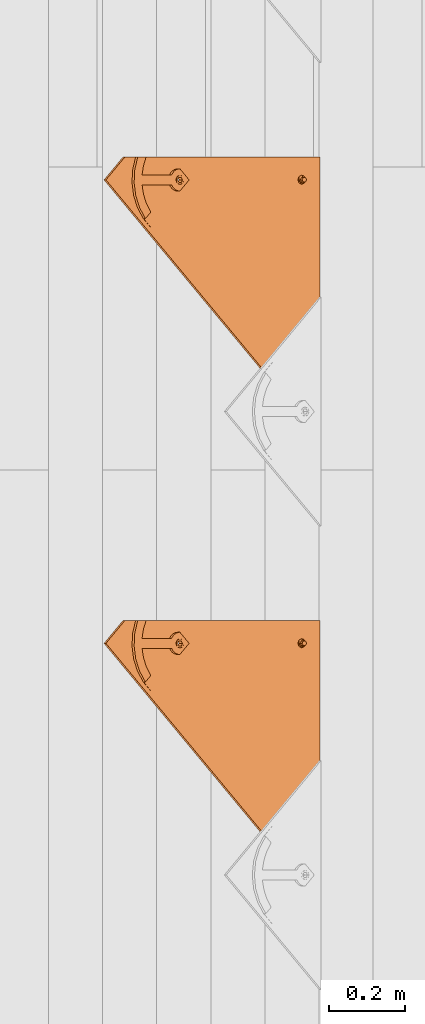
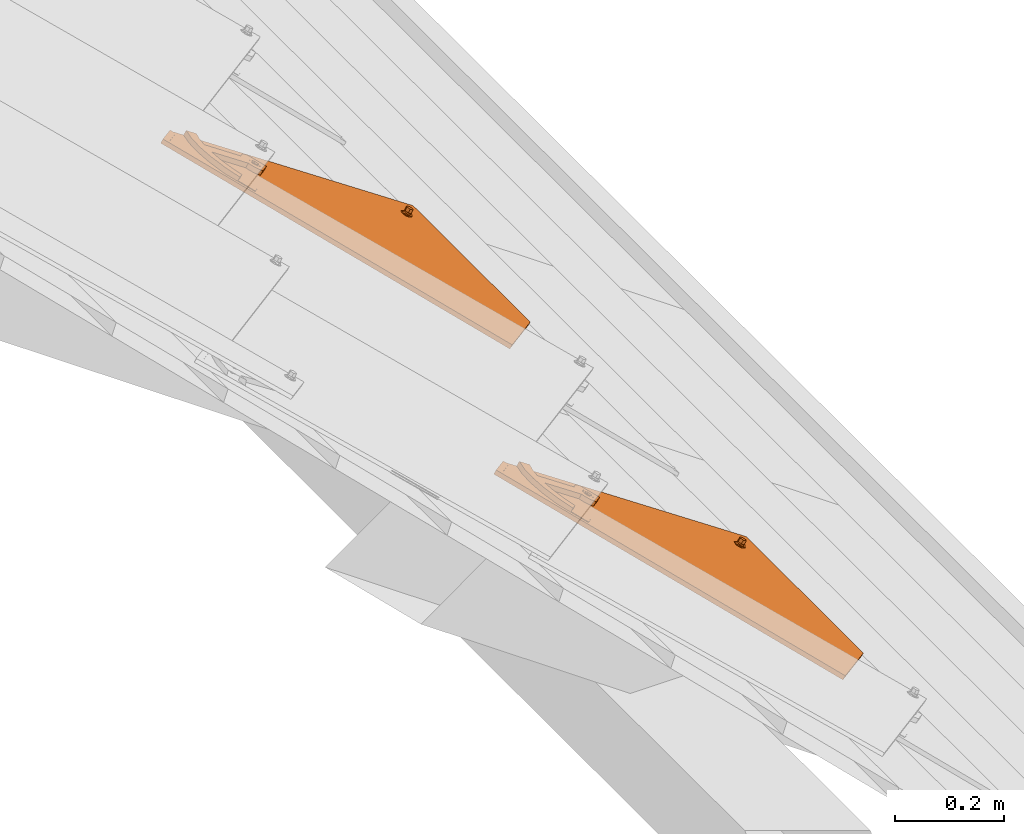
# One storey, part 135 of 151: 2 proxies.
"""IFC2X3 building model written with IfcOpenShell, lengths in millimetres."""

from ifc_helpers import new_model, entity, si_unit, converted_unit, derived_unit, direction, frame, origin, place, context, subcontext, project, spatial, faceted_brep, source, transform, mapped, material, material_list, type_object, type_shapes, element, save


model = new_model("IFC2X3")

# Units and contexts
model_context = context("Model", 3, precision=0.01, world=origin(), true_north=direction((6.12303176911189e-17, 1.0)))
body_context = subcontext(model_context, "Body", "Model", "MODEL_VIEW")
ifc_project = project(units=[si_unit("LENGTHUNIT", "METRE", prefix="MILLI"), si_unit("AREAUNIT", "SQUARE_METRE"), si_unit("VOLUMEUNIT", "CUBIC_METRE"), converted_unit("PLANEANGLEUNIT", "DEGREE", entity("IfcRatioMeasure", 0.0174532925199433), si_unit("PLANEANGLEUNIT", "RADIAN"), dimensions=[0, 0, 0, 0, 0, 0, 0]), si_unit("MASSUNIT", "GRAM", prefix="KILO"), derived_unit("MASSDENSITYUNIT", [(si_unit("MASSUNIT", "GRAM", prefix="KILO"), 1), (si_unit("LENGTHUNIT", "METRE"), -3)]), si_unit("TIMEUNIT", "SECOND"), si_unit("FREQUENCYUNIT", "HERTZ"), si_unit("THERMODYNAMICTEMPERATUREUNIT", "DEGREE_CELSIUS"), derived_unit("THERMALTRANSMITTANCEUNIT", [(si_unit("MASSUNIT", "GRAM", prefix="KILO"), 1), (si_unit("THERMODYNAMICTEMPERATUREUNIT", "KELVIN"), -1), (si_unit("TIMEUNIT", "SECOND"), -3)]), derived_unit("VOLUMETRICFLOWRATEUNIT", [(si_unit("LENGTHUNIT", "METRE"), 3), (si_unit("TIMEUNIT", "SECOND"), -1)]), si_unit("ELECTRICCURRENTUNIT", "AMPERE"), si_unit("ELECTRICVOLTAGEUNIT", "VOLT"), si_unit("POWERUNIT", "WATT"), si_unit("FORCEUNIT", "NEWTON", prefix="KILO"), si_unit("ILLUMINANCEUNIT", "LUX"), si_unit("LUMINOUSFLUXUNIT", "LUMEN"), si_unit("LUMINOUSINTENSITYUNIT", "CANDELA"), derived_unit("USERDEFINED", [(si_unit("MASSUNIT", "GRAM", prefix="KILO"), -1), (si_unit("LENGTHUNIT", "METRE"), -2), (si_unit("TIMEUNIT", "SECOND"), 3), (si_unit("LUMINOUSFLUXUNIT", "LUMEN"), 1)]), derived_unit("LINEARVELOCITYUNIT", [(si_unit("LENGTHUNIT", "METRE"), 1), (si_unit("TIMEUNIT", "SECOND"), -1)]), si_unit("PRESSUREUNIT", "PASCAL"), derived_unit("USERDEFINED", [(si_unit("LENGTHUNIT", "METRE"), -2), (si_unit("MASSUNIT", "GRAM", prefix="KILO"), 1), (si_unit("TIMEUNIT", "SECOND"), -2)])], contexts=[model_context])

# Site, building, storey
site_placement = place(None, origin())
site = spatial("IfcSite", under=ifc_project, at=site_placement, Name="Default", CompositionType="ELEMENT")
building_placement = place(site_placement, origin())
building = spatial("IfcBuilding", under=site, at=building_placement, CompositionType="ELEMENT")
storey_placement = place(building_placement, origin())
storey = spatial("IfcBuildingStorey", under=building, at=storey_placement, Name="Level 1", CompositionType="ELEMENT", Elevation=0.0)

# Proxies
ifc_material_1 = material(Name="Rubber - Sunstyle - Black")
ifc_material_2 = material(Name="Glass - Sunstyle - Tainted Black")
ifc_material_list_1 = material_list([ifc_material_1, ifc_material_2])
ifc_material_list_2 = material_list([ifc_material_1, ifc_material_2])
building_element_proxy_type = type_object("IfcBuildingElementProxyType", Name="Corner Bottom Big Right - Black", PredefinedType="NOTDEFINED", material=ifc_material_list_2)
shared_shape = source(origin(), body_context, "Body", "Brep", [
    faceted_brep([(0.270009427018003, -2.025866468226, -4.01619789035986), (-5.50419340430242, -5.35913660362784, -3.96037390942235), (-5.50419340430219, -4.99082751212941, 18.0314954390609), (0.270009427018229, -1.65755737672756, 17.9756714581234), (-5.50419340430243, -12.0256768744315, -3.84872594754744), (-5.5041934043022, -11.6573677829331, 18.1431434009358), (0.270009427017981, -15.3589470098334, -3.79290196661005), (0.270009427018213, -14.990637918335, 18.1989673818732), (6.04421225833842, -12.0256768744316, -3.84872594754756), (6.04421225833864, -11.6573677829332, 18.1431434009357), (6.04421225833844, -5.35913660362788, -3.96037390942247), (6.04421225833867, -4.99082751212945, 18.0314954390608), (-8.3336947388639, -16.9265954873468, 18.2313898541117), (0.27000942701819, -20.4898667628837, 18.2910657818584), (-11.8974656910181, -8.32409764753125, 18.0873194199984), (-8.33369473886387, 0.278400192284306, 17.9432489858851), (0.270009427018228, 3.84167146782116, 17.8835730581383), (8.87371359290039, 0.278400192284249, 17.9432489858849), (12.4374845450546, -8.32409764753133, 18.0873194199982), (8.87371359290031, -16.9265954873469, 18.2313898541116), (-11.1602134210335, -6.95050198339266, 20.4858706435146), (-9.50050407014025, -8.25322861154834, 22.3189355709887), (0.270009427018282, -0.940007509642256, 22.9603444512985), (0.27000942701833, 0.300490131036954, 22.3799978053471), (0.270009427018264, 2.4580409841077, 21.3706227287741), (-6.05323627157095, -4.59022324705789, 23.0214764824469), (-6.05323627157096, -11.8906547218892, 23.1437405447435), (0.270009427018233, -18.990246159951, 21.7298281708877), (0.270009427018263, -15.5408704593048, 23.2048725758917), (11.2551842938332, -12.0411541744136, 20.3827540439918), (10.3938597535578, -8.25726753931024, 22.077768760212), (6.59325512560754, -4.59022324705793, 23.0214764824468), (6.5932551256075, -11.8906547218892, 23.1437405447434), (-6.05323627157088, -11.7566262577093, 31.1466287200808), (0.270009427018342, -15.4068419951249, 31.207760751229), (0.270009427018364, -8.10641052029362, 31.0854966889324), (-6.05323627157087, -4.456194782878, 31.0243646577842), (6.59325512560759, -11.7566262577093, 31.1466287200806), (6.59325512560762, -4.45619478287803, 31.024364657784), (0.270009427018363, -0.805979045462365, 30.9632326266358), (0.270009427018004, -8.69240673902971, -3.90454992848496)], [[[0, 1, 2, 3]], [[1, 4, 5, 2]], [[4, 6, 7, 5]], [[6, 8, 9, 7]], [[8, 10, 11, 9]], [[10, 0, 3, 11]], [[12, 7, 13]], [[7, 12, 5]], [[14, 5, 12]], [[5, 14, 2]], [[15, 2, 14]], [[3, 2, 15]], [[15, 16, 3]], [[16, 17, 3]], [[11, 3, 17]], [[11, 17, 18]], [[9, 11, 18]], [[18, 19, 9]], [[7, 9, 19]], [[19, 13, 7]], [[15, 20, 16]], [[21, 22, 23, 24]], [[22, 21, 25]], [[20, 14, 12]], [[15, 14, 20]], [[25, 21, 26]], [[20, 24, 16]], [[12, 13, 27]], [[12, 27, 20]], [[21, 28, 26]], [[21, 27, 28]], [[20, 21, 24]], [[20, 27, 21]], [[19, 29, 13]], [[30, 23, 31]], [[30, 28, 27]], [[24, 23, 30]], [[29, 27, 13]], [[19, 18, 29]], [[29, 30, 27]], [[29, 17, 24]], [[24, 17, 16]], [[31, 32, 30]], [[23, 22, 31]], [[28, 30, 32]], [[29, 24, 30]], [[29, 18, 17]], [[33, 34, 35]], [[35, 36, 33]], [[34, 37, 35]], [[38, 35, 37]], [[35, 38, 39]], [[35, 39, 36]], [[40, 6, 4]], [[4, 1, 40]], [[1, 0, 40]], [[40, 8, 6]], [[0, 10, 40]], [[8, 40, 10]], [[22, 25, 36, 39]], [[25, 26, 33, 36]], [[26, 28, 34, 33]], [[28, 32, 37, 34]], [[32, 31, 38, 37]], [[31, 22, 39, 38]]]),
    faceted_brep([(-518.247351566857, 79.9143812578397, 14.9652572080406), (-518.247351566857, 79.9394990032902, 16.4650468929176), (-526.732038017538, 88.4241854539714, 16.3229495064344), (-526.732038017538, 88.399067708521, 14.8231598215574), (-0.00032251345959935, 614.98308737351, 6.00418773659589), (60.1037538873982, 554.895864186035, 7.01049921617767), (51.6190674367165, 546.411177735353, 7.15259660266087), (-0.000322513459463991, 598.016093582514, 6.28834266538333), (-0.000322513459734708, 615.00820511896, 7.50397742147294), (-0.000322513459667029, 598.041211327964, 7.78813235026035), (51.6190674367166, 546.436295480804, 8.65238628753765), (60.1037538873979, 554.920981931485, 8.51028890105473)], [[[0, 1, 2, 3]], [[0, 3, 4, 5, 6, 7]], [[3, 2, 8, 4]], [[2, 1, 9, 10, 11, 8]], [[1, 0, 7, 9]], [[6, 5, 11, 10]], [[4, 8, 11, 5]], [[9, 7, 6, 10]]]),
    faceted_brep([(0.0, 372.774440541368, 20.3195200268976), (0.0, 377.273809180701, 20.2441667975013), (-8.60370416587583, 376.337711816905, 20.2598440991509), (8.60370416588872, 376.337711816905, 20.2598440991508), (6.64022859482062, 381.107009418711, 20.1799702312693), (12.1674751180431, 384.940209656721, 20.1157736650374), (6.64022859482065, 388.773409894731, 20.0515770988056), (8.6037041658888, 393.542707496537, 19.9717032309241), (0.0, 392.606610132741, 19.9873805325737), (0.0, 397.105978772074, 19.9120273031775), (-8.60370416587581, 393.542707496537, 19.9717032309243), (-6.64022859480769, 388.773409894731, 20.0515770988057), (-12.1674751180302, 384.940209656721, 20.1157736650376), (-6.6402285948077, 381.107009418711, 20.1799702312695), (-6.6402282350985, 388.505487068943, 4.05382046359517), (0.0, 392.338687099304, 3.98962390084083), (-6.64022823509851, 380.839087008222, 4.18221358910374), (0.0, 377.005886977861, 4.24641015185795), (6.64022823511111, 380.839087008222, 4.1822135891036), (6.64022823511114, 388.505487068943, 4.05382046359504), (-8.603704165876, 376.069789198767, 4.26208746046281), (0.0, 372.50651792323, 4.32176338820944), (-12.1674751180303, 384.672287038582, 4.11801702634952), (-8.60370416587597, 393.274784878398, 3.97394659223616), (0.0, 396.838056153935, 3.91427066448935), (8.60370416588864, 393.274784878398, 3.97394659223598), (12.1674751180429, 384.672287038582, 4.11801702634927), (8.60370416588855, 376.069789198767, 4.26208746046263)], [[[0, 1, 2]], [[1, 0, 3]], [[3, 4, 1]], [[4, 3, 5]], [[6, 4, 5]], [[5, 7, 6]], [[7, 8, 6]], [[8, 7, 9]], [[8, 9, 10]], [[10, 11, 8]], [[12, 11, 10]], [[2, 13, 12]], [[12, 13, 11]], [[13, 2, 1]], [[8, 11, 14, 15]], [[11, 13, 16, 14]], [[13, 1, 17, 16]], [[1, 4, 18, 17]], [[4, 6, 19, 18]], [[6, 8, 15, 19]], [[20, 17, 21]], [[17, 20, 16]], [[22, 16, 20]], [[14, 16, 22]], [[23, 14, 22]], [[15, 14, 23]], [[23, 24, 15]], [[24, 25, 15]], [[19, 15, 25]], [[19, 25, 26]], [[26, 18, 19]], [[26, 27, 18]], [[17, 18, 27]], [[27, 21, 17]], [[24, 23, 10, 9]], [[10, 23, 22, 12]], [[20, 21, 0, 2]], [[20, 2, 12, 22]], [[21, 27, 3, 0]], [[3, 27, 26, 5]], [[25, 24, 9, 7]], [[25, 7, 5, 26]]]),
    faceted_brep([(-10.3923048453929, 390.78484910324, 9.75895037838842), (-8.48528137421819, 393.269782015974, 9.7173339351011), (-0.00032251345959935, 614.983087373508, 6.0041877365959), (-11.5911099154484, 387.891083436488, 9.8074137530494), (-6.0, 395.176538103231, 9.68540051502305), (-3.10582854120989, 396.37517508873, 9.6653263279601), (60.1037538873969, 554.895864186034, 7.01049921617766), (0.0, 396.784007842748, 9.65847939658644), (3.1058285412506, 396.37517508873, 9.6653263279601), (6.0, 395.176538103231, 9.68540051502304), (8.48528137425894, 393.269782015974, 9.7173339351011), (10.3923048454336, 390.784849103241, 9.75895037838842), (11.5911099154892, 387.891083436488, 9.8074137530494), (12.0, 384.785690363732, 9.8594213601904), (11.5911099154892, 381.680297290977, 9.9114289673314), (60.103753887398, -67.933460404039, 17.4413406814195), (10.3923048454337, 378.786531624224, 9.95989234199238), (6.58173564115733, -3.94243384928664, 16.369650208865), (8.48528137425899, 376.301598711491, 10.0015087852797), (5.31038666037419, -2.28581190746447, 16.3419059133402), (6.0, 374.394842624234, 10.0334422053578), (3.65353241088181, -1.01464118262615, 16.3206169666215), (3.10582854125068, 373.196205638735, 10.0535163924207), (1.72408477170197, -0.215549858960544, 16.3072341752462), (0.0, 372.787372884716, 10.0603633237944), (-0.346467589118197, 0.0570053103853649, 16.3026695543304), (-2.41701994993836, -0.215549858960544, 16.3072341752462), (-3.10582854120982, 373.196205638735, 10.0535163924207), (-4.34646758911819, -1.01464118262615, 16.3206169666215), (-6.0, 374.394842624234, 10.0334422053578), (-6.00332183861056, -2.28581190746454, 16.3419059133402), (-8.48528137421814, 376.301598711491, 10.0015087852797), (-370.355661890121, -67.9334604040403, 17.4413406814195), (-10.3923048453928, 378.786531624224, 9.95989234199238), (-526.732038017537, 88.3990677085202, 14.8231598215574), (-11.5911099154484, 381.680297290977, 9.9114289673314), (-12.0, 384.785690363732, 9.8594213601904), (-7.27467081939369, -3.94243384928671, 16.369650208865), (-8.07387419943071, -5.87161096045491, 16.4019591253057), (-8.34646758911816, -7.94187300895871, 16.4366308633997), (-8.0738741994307, -10.0121350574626, 16.4713026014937), (-7.27467081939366, -11.9413121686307, 16.5036115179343), (-6.00332183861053, -13.5979341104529, 16.5313558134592), (-4.34646758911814, -14.8691048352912, 16.5526447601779), (-2.41701994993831, -15.6681961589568, 16.5660275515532), (7.38093902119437, -5.87161096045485, 16.4019591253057), (7.65353241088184, -7.94187300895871, 16.4366308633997), (7.38093902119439, -10.0121350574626, 16.4713026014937), (6.58173564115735, -11.9413121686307, 16.5036115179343), (5.31038666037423, -13.5979341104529, 16.5313558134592), (3.65353241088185, -14.8691048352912, 16.5526447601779), (1.72408477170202, -15.6681961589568, 16.5660275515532), (-0.346467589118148, -15.9407513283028, 16.570592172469), (-370.355661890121, -68.0590491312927, 9.94239225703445), (-8.0738741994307, -10.1377237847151, 8.97235417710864), (-7.27467081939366, -12.0669008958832, 9.00466309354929), (-8.34646758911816, -8.06746173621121, 8.93768243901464), (-6.00332183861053, -13.7235228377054, 9.03240738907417), (-4.34646758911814, -14.9946935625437, 9.05369633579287), (60.103753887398, -68.0590491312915, 9.94239225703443), (-8.07387419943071, -5.99719968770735, 8.90301070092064), (-7.27467081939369, -4.06802257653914, 8.87070178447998), (-6.00332183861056, -2.41140063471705, 8.8429574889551), (-8.48528137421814, 376.176009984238, 2.50256036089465), (-10.3923048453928, 378.660942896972, 2.46094391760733), (-526.732038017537, 88.2734789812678, 7.32421139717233), (-11.5911099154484, 381.554708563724, 2.41248054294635), (-12.0, 384.66010163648, 2.36047293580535), (-11.5911099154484, 387.765494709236, 2.30846532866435), (-0.00032251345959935, 614.857498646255, -1.49476068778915), (-10.3923048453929, 390.659260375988, 2.26000195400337), (-8.48528137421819, 393.144193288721, 2.21838551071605), (-6.0, 395.050949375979, 2.18645209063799), (-3.10582854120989, 396.249586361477, 2.16637790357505), (60.1037538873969, 554.770275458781, -0.488449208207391), (0.0, 396.658419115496, 2.15953097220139), (3.1058285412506, 396.249586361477, 2.16637790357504), (6.0, 395.050949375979, 2.18645209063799), (8.48528137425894, 393.144193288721, 2.21838551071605), (10.3923048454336, 390.659260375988, 2.26000195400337), (11.5911099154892, 387.765494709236, 2.30846532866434), (12.0, 384.66010163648, 2.36047293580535), (11.5911099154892, 381.554708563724, 2.41248054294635), (-2.41701994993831, -15.7937848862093, 9.06707912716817), (-0.346467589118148, -16.0663400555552, 9.07164374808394), (1.72408477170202, -15.7937848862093, 9.06707912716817), (3.65353241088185, -14.9946935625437, 9.05369633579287), (5.31038666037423, -13.7235228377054, 9.03240738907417), (6.58173564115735, -12.0669008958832, 9.00466309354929), (7.38093902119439, -10.1377237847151, 8.97235417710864), (7.65353241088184, -8.06746173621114, 8.93768243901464), (7.38093902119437, -5.99719968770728, 8.90301070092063), (6.58173564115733, -4.06802257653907, 8.87070178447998), (10.3923048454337, 378.660942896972, 2.46094391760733), (-6.0, 374.269253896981, 2.5344937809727), (-4.34646758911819, -1.14022990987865, 8.8216685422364), (-3.10582854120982, 373.070616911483, 2.55456796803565), (-2.41701994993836, -0.341138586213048, 8.8082857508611), (0.0, 372.661784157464, 2.56141489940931), (-0.346467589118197, -0.0685834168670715, 8.80372112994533), (1.72408477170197, -0.341138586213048, 8.8082857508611), (3.10582854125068, 373.070616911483, 2.55456796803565), (3.65353241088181, -1.14022990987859, 8.8216685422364), (6.0, 374.269253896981, 2.5344937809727), (5.31038666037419, -2.41140063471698, 8.8429574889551), (8.48528137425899, 376.176009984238, 2.50256036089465)], [[[0, 1, 2]], [[3, 0, 2]], [[4, 2, 1]], [[2, 4, 5]], [[6, 2, 5]], [[7, 6, 5]], [[7, 8, 6]], [[8, 9, 6]], [[10, 6, 9]], [[6, 10, 11]], [[6, 11, 12]], [[12, 13, 6]], [[13, 14, 6]], [[6, 14, 15]], [[14, 16, 15]], [[17, 15, 16]], [[18, 17, 16]], [[17, 18, 19]], [[18, 20, 19]], [[21, 19, 20]], [[20, 22, 21]], [[23, 21, 22]], [[24, 23, 22]], [[23, 24, 25]], [[26, 25, 24]], [[24, 27, 26]], [[26, 27, 28]], [[29, 28, 27]], [[28, 29, 30]], [[29, 31, 30]], [[32, 30, 31]], [[33, 32, 31]], [[33, 34, 32]], [[33, 35, 34]], [[35, 36, 34]], [[36, 3, 34]], [[3, 2, 34]], [[30, 32, 37]], [[37, 32, 38]], [[32, 39, 38]], [[39, 32, 40]], [[40, 32, 41]], [[42, 41, 32]], [[42, 32, 43]], [[43, 32, 15]], [[15, 44, 43]], [[17, 45, 15]], [[45, 46, 15]], [[47, 15, 46]], [[47, 48, 15]], [[49, 15, 48]], [[15, 49, 50]], [[50, 51, 15]], [[51, 52, 15]], [[52, 44, 15]], [[53, 54, 55]], [[54, 53, 56]], [[53, 55, 57]], [[57, 58, 53]], [[53, 58, 59]], [[60, 56, 53]], [[61, 60, 53]], [[61, 53, 62]], [[63, 62, 53]], [[64, 63, 53]], [[65, 64, 53]], [[65, 66, 64]], [[66, 65, 67]], [[67, 65, 68]], [[65, 69, 68]], [[70, 68, 69]], [[71, 70, 69]], [[72, 71, 69]], [[69, 73, 72]], [[74, 73, 69]], [[75, 73, 74]], [[76, 75, 74]], [[77, 76, 74]], [[74, 78, 77]], [[78, 74, 79]], [[80, 79, 74]], [[80, 74, 81]], [[82, 81, 74]], [[82, 74, 59]], [[59, 58, 83]], [[84, 59, 83]], [[84, 85, 59]], [[85, 86, 59]], [[87, 59, 86]], [[59, 87, 88]], [[59, 88, 89]], [[89, 90, 59]], [[90, 91, 59]], [[91, 92, 59]], [[92, 93, 59]], [[93, 82, 59]], [[94, 62, 63]], [[94, 95, 62]], [[96, 95, 94]], [[97, 95, 96]], [[96, 98, 97]], [[99, 97, 98]], [[99, 98, 100]], [[101, 100, 98]], [[102, 100, 101]], [[103, 102, 101]], [[104, 102, 103]], [[103, 105, 104]], [[105, 92, 104]], [[105, 93, 92]], [[36, 67, 68, 3]], [[3, 68, 70, 0]], [[4, 1, 71, 72]], [[70, 71, 1, 0]], [[5, 4, 72, 73]], [[75, 7, 5, 73]], [[8, 76, 77, 9]], [[9, 77, 78, 10]], [[12, 11, 79, 80]], [[78, 79, 11, 10]], [[13, 12, 80, 81]], [[8, 7, 75, 76]], [[13, 81, 82, 14]], [[14, 82, 93, 16]], [[20, 18, 105, 103]], [[93, 105, 18, 16]], [[22, 20, 103, 101]], [[98, 24, 22, 101]], [[27, 96, 94, 29]], [[29, 94, 63, 31]], [[35, 33, 64, 66]], [[63, 64, 33, 31]], [[36, 35, 66, 67]], [[27, 24, 98, 96]], [[34, 2, 69, 65]], [[32, 34, 65, 53]], [[15, 32, 53, 59]], [[6, 15, 59, 74]], [[2, 6, 74, 69]], [[39, 56, 60, 38]], [[38, 60, 61, 37]], [[28, 30, 62, 95]], [[62, 30, 37, 61]], [[26, 28, 95, 97]], [[26, 97, 99, 25]], [[25, 99, 100, 23]], [[23, 100, 102, 21]], [[17, 19, 104, 92]], [[104, 19, 21, 102]], [[45, 17, 92, 91]], [[45, 91, 90, 46]], [[46, 90, 89, 47]], [[47, 89, 88, 48]], [[50, 49, 87, 86]], [[87, 49, 48, 88]], [[51, 50, 86, 85]], [[51, 85, 84, 52]], [[52, 84, 83, 44]], [[44, 83, 58, 43]], [[41, 42, 57, 55]], [[57, 42, 43, 58]], [[40, 41, 55, 54]], [[40, 54, 56, 39]]]),
    faceted_brep([(-114.2509690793, 483.839345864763, 10.7008696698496), (-128.946713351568, 469.147722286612, 10.9469178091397), (-111.269043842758, 451.472531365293, 11.2429332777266), (-84.944396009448, 477.793488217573, 10.8021227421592), (-102.027571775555, 494.874268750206, 10.5160621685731), (-108.279973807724, 489.512620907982, 10.6058564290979), (0.0, 355.735286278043, 10.3459433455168), (0.0, 373.122276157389, 10.0547545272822), (3.10582854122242, 373.531108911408, 10.0479075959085), (-3.10582854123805, 373.531108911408, 10.0479075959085), (6.0, 374.729745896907, 10.0278334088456), (8.48528137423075, 376.636501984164, 9.99589998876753), (29.3894280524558, 385.120593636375, 9.85381256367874), (-6.0, 374.729745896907, 10.0278334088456), (-8.4852813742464, 376.636501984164, 9.99589998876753), (-29.3894280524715, 385.120593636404, 9.85381256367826), (-10.3923048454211, 379.121434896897, 9.95428354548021), (-11.5911099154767, 382.01520056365, 9.90582017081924), (-12.0, 385.120593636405, 9.85381256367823), (-28.6795527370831, 391.540108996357, 9.74630165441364), (-11.5911099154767, 388.225986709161, 9.80180495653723), (-26.5842195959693, 397.649509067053, 9.64398440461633), (-10.3923048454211, 391.119752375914, 9.75334158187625), (-23.204650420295, 403.153659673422, 9.55180357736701), (-8.48528137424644, 393.604685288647, 9.71172513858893), (-18.704106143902, 407.786665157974, 9.47421226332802), (-6.0, 395.511441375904, 9.67979171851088), (-13.3000000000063, 411.324713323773, 9.41495875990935), (-3.10582854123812, 396.710078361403, 9.65971753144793), (0.0, 397.118911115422, 9.65287060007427), (13.2999999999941, 411.324713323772, 9.41495875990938), (-13.3000000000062, 505.643535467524, 7.83535317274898), (13.2999999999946, 505.643535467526, 7.83535317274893), (-7.21723712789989, 530.953901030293, 7.41146752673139), (-41.1626974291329, 525.784666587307, 7.49803934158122), (-38.7697427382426, 500.828655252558, 7.91599043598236), (-73.2491712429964, 513.560140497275, 7.70276973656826), (-62.9243331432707, 491.42502143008, 8.07347790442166), (-84.9431983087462, 477.752822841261, 8.30245321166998), (-102.027571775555, 494.832405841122, 8.01641269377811), (-108.279973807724, 489.470757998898, 8.10620695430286), (-114.2509690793, 483.79748295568, 8.20122019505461), (-111.269043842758, 451.430668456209, 8.74328380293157), (-128.946713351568, 469.105859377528, 8.44726833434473), (27.0541674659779, 528.834391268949, 7.44696404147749), (37.2599857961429, 501.252149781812, 7.90889795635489), (60.1037538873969, 519.521858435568, 7.60292579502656), (60.1037538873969, 492.795625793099, 8.05052369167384), (3.10582854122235, 396.710078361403, 9.65971753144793), (6.0, 395.511441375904, 9.67979171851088), (18.7041061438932, 407.786665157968, 9.47421226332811), (8.48528137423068, 393.604685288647, 9.71172513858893), (23.2046504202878, 403.153659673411, 9.55180357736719), (10.3923048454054, 391.119752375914, 9.75334158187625), (26.5842195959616, 397.649509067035, 9.64398440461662), (11.591109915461, 388.225986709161, 9.80180495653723), (28.6795527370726, 391.540108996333, 9.74630165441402), (12.0, 385.120593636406, 9.85381256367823), (11.591109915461, 382.01520056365, 9.90582017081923), (10.3923048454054, 379.121434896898, 9.95428354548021), (-38.7697427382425, 500.996106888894, 17.9145883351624), (-41.1626974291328, 525.952118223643, 17.4966372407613), (-73.2491712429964, 513.727592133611, 17.7013676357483), (-62.9243331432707, 491.592473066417, 18.0720758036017), (-13.3000000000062, 505.810987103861, 17.833951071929), (-7.21723712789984, 531.121352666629, 17.4100654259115), (13.2999999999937, 505.810987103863, 17.833951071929), (-13.3000000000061, 411.49216496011, 19.4135566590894), (13.2999999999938, 411.492164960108, 19.4135566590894), (0.0, 397.286362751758, 19.6514684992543), (-3.10582854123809, 396.877529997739, 19.658315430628), (-6.0, 395.678893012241, 19.6783896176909), (-18.7041061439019, 407.954116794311, 19.4728101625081), (-8.48528137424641, 393.772136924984, 19.710323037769), (-23.2046504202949, 403.321111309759, 19.5504014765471), (-10.3923048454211, 391.28720401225, 19.7519394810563), (-26.5842195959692, 397.816960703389, 19.6425823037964), (-11.5911099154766, 388.393438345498, 19.8004028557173), (-28.6795527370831, 391.707560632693, 19.7448995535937), (-12.0, 385.288045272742, 19.8524104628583), (-29.3894280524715, 385.28804527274, 19.8524104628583), (-11.5911099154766, 382.182652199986, 19.9044180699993), (-10.3923048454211, 379.288886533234, 19.9528814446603), (-8.48528137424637, 376.803953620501, 19.9944978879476), (0.0, 355.902737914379, 20.3445412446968), (-6.0, 374.897197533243, 20.0264313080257), (-3.10582854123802, 373.698560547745, 20.0465054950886), (0.0, 373.289727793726, 20.0533524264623), (3.10582854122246, 373.698560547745, 20.0465054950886), (6.0, 374.897197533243, 20.0264313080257), (8.48528137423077, 376.803953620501, 19.9944978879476), (29.3894280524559, 385.288045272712, 19.8524104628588), (10.3923048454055, 379.288886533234, 19.9528814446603), (11.591109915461, 382.182652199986, 19.9044180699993), (12.0, 385.288045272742, 19.8524104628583), (28.6795527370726, 391.70756063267, 19.7448995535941), (11.591109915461, 388.393438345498, 19.8004028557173), (26.5842195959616, 397.816960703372, 19.6425823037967), (10.3923048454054, 391.28720401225, 19.7519394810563), (23.2046504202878, 403.321111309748, 19.5504014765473), (8.48528137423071, 393.772136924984, 19.710323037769), (18.7041061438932, 407.954116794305, 19.4728101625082), (6.0, 395.678893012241, 19.6783896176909), (3.10582854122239, 396.877529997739, 19.658315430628), (27.0541674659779, 529.001842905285, 17.4455619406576), (37.259985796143, 501.419601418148, 17.907495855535), (60.1037538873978, 519.689310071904, 17.6015236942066), (60.1037538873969, 492.963077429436, 18.0491215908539), (-84.9443960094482, 477.919076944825, 18.3010711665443), (-102.027571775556, 494.999857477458, 18.0150105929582)], [[[0, 1, 2, 3, 4, 5]], [[6, 7, 8]], [[7, 6, 9]], [[6, 8, 10]], [[10, 11, 6]], [[6, 11, 12]], [[13, 9, 6]], [[14, 13, 6]], [[14, 6, 15]], [[15, 16, 14]], [[16, 15, 17]], [[17, 15, 18]], [[19, 18, 15]], [[20, 18, 19]], [[19, 21, 20]], [[20, 21, 22]], [[23, 22, 21]], [[23, 24, 22]], [[23, 25, 24]], [[25, 26, 24]], [[26, 25, 27]], [[28, 26, 27]], [[27, 29, 28]], [[30, 29, 27]], [[30, 27, 31]], [[30, 31, 32]], [[31, 33, 32]], [[33, 31, 34]], [[35, 34, 31]], [[34, 35, 36]], [[37, 36, 35]], [[37, 38, 36]], [[36, 38, 39]], [[40, 39, 38]], [[40, 38, 41]], [[38, 42, 41]], [[42, 43, 41]], [[32, 33, 44]], [[44, 45, 32]], [[45, 44, 46]], [[46, 47, 45]], [[48, 29, 30]], [[30, 49, 48]], [[49, 30, 50]], [[50, 51, 49]], [[50, 52, 51]], [[51, 52, 53]], [[54, 53, 52]], [[54, 55, 53]], [[56, 55, 54]], [[57, 55, 56]], [[12, 57, 56]], [[58, 57, 12]], [[12, 11, 59]], [[58, 12, 59]], [[1, 0, 41, 43]], [[2, 1, 43, 42]], [[4, 39, 40, 5]], [[40, 41, 0, 5]], [[3, 2, 42, 38]], [[60, 61, 62]], [[63, 60, 62]], [[64, 61, 60]], [[61, 64, 65]], [[66, 65, 64]], [[66, 64, 67]], [[66, 67, 68]], [[68, 67, 69]], [[67, 70, 69]], [[71, 70, 67]], [[71, 67, 72]], [[72, 73, 71]], [[73, 72, 74]], [[73, 74, 75]], [[74, 76, 75]], [[75, 76, 77]], [[78, 77, 76]], [[78, 79, 77]], [[78, 80, 79]], [[79, 80, 81]], [[82, 81, 80]], [[83, 82, 80]], [[83, 80, 84]], [[85, 83, 84]], [[86, 85, 84]], [[87, 86, 84]], [[87, 84, 88]], [[89, 88, 84]], [[89, 84, 90]], [[91, 90, 84]], [[92, 90, 91]], [[91, 93, 92]], [[93, 91, 94]], [[95, 94, 91]], [[95, 96, 94]], [[95, 97, 96]], [[96, 97, 98]], [[99, 98, 97]], [[98, 99, 100]], [[100, 99, 101]], [[101, 68, 102]], [[100, 101, 102]], [[102, 68, 103]], [[103, 68, 69]], [[66, 104, 65]], [[105, 104, 66]], [[105, 106, 104]], [[106, 105, 107]], [[108, 63, 62]], [[62, 109, 108]], [[66, 68, 30, 32]], [[95, 91, 12, 56]], [[97, 95, 56, 54]], [[54, 52, 99, 97]], [[101, 99, 52, 50]], [[68, 101, 50, 30]], [[91, 84, 6, 12]], [[84, 80, 15, 6]], [[72, 67, 27, 25]], [[74, 72, 25, 23]], [[23, 21, 76, 74]], [[78, 76, 21, 19]], [[80, 78, 19, 15]], [[67, 64, 31, 27]], [[104, 106, 46, 44]], [[65, 104, 44, 33]], [[33, 34, 61, 65]], [[62, 61, 34, 36]], [[4, 109, 62, 36, 39]], [[79, 18, 20, 77]], [[77, 20, 22, 75]], [[71, 73, 24, 26]], [[22, 24, 73, 75]], [[70, 71, 26, 28]], [[29, 69, 70, 28]], [[103, 48, 49, 102]], [[102, 49, 51, 100]], [[96, 98, 53, 55]], [[51, 53, 98, 100]], [[94, 96, 55, 57]], [[103, 69, 29, 48]], [[94, 57, 58, 93]], [[93, 58, 59, 92]], [[89, 90, 11, 10]], [[59, 11, 90, 92]], [[88, 89, 10, 8]], [[7, 87, 88, 8]], [[86, 9, 13, 85]], [[85, 13, 14, 83]], [[81, 82, 16, 17]], [[14, 16, 82, 83]], [[79, 81, 17, 18]], [[86, 87, 7, 9]], [[108, 109, 4, 3]], [[32, 45, 105, 66]], [[47, 107, 105, 45]], [[3, 37, 63, 108]], [[3, 38, 37]], [[35, 31, 64, 60]], [[37, 35, 60, 63]], [[106, 107, 47, 46]]]),
])
type_shapes(building_element_proxy_type, [shared_shape])
proxy_1_placement = place(storey_placement, frame((4500.27316942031, 1421.13673886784, 564.643296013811), z_axis=(0.573576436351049, 0.0, 0.81915204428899), x_axis=(0.0, 1.0, 0.0)))
element("IfcBuildingElementProxy", 1, at=proxy_1_placement, inside=storey, type_object=building_element_proxy_type, material=ifc_material_list_1, Name="Roofing_Panels_SunStyle_Tile_Corner-Bottom-Big-Right:Corner Bottom Big Right - Black", ObjectType="Roofing_Panels_SunStyle_Tile_Corner-Bottom-Big-Right:Corner Bottom Big Right - Black", context=body_context, shape_type="MappedRepresentation", body=[
    mapped(shared_shape, transform((0.0, 0.0, 0.0), scale=1.0)),
])
ifc_material_list_3 = material_list([ifc_material_1, ifc_material_2])
proxy_2_placement = place(storey_placement, frame((4500.27316942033, 197.513732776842, 564.64329601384), z_axis=(0.573576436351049, 0.0, 0.81915204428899), x_axis=(0.0, 1.0, 0.0)))
element("IfcBuildingElementProxy", 2, at=proxy_2_placement, inside=storey, type_object=building_element_proxy_type, material=ifc_material_list_3, Name="Roofing_Panels_SunStyle_Tile_Corner-Bottom-Big-Right:Corner Bottom Big Right - Black", ObjectType="Roofing_Panels_SunStyle_Tile_Corner-Bottom-Big-Right:Corner Bottom Big Right - Black", context=body_context, shape_type="MappedRepresentation", body=[
    mapped(shared_shape, transform((0.0, 0.0, 0.0), scale=1.0)),
])

save(model, "model.ifc")
